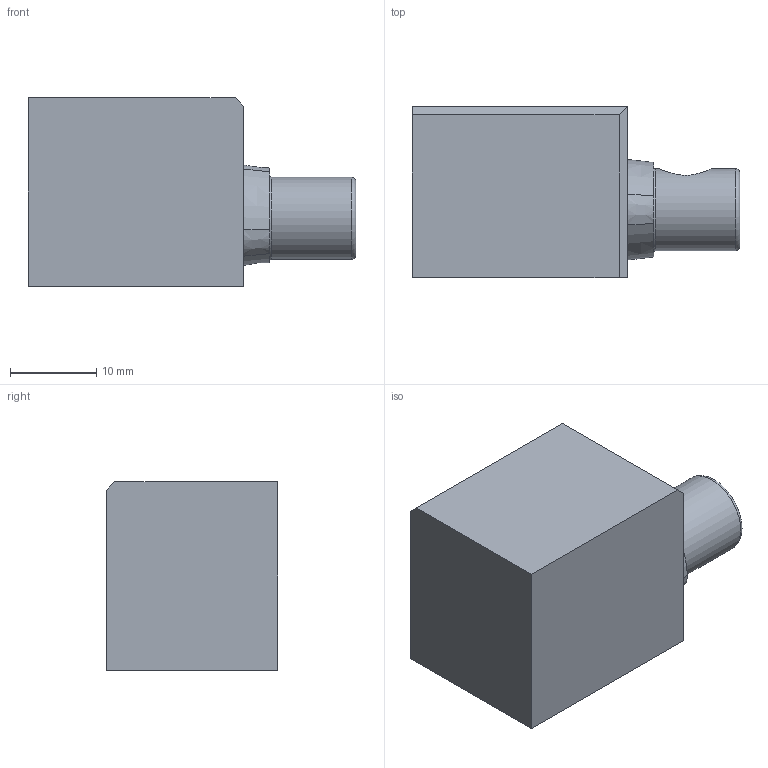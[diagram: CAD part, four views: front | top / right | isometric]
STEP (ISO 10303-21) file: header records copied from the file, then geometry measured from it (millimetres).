
FILE_DESCRIPTION(/* description */ (''),/* implementation_level */ '2;1');
FILE_NAME(/* name */ 'WEBDA_E00020396_00_DIN4003.stp',/* time_stamp */ '2021-06-15T10:51:06+02:00',/* author */ (''),/* organization */ (''),/* preprocessor_version */ 'ST-DEVELOPER v16',/* originating_system */ 'SIEMENS PLM Software NX 11.0',/* authorisation */ '');
FILE_SCHEMA (('AUTOMOTIVE_DESIGN { 1 0 10303 214 3 1 1 1 }'));
Length unit declared in the file: millimetre
Products named in the file (1): ja.h7E0CA2E8qag6
Bounding box: 38 x 19.9 x 21.9 mm (x, y, z)
Volume: 11757.9 mm3; surface area: 3444.9 mm2
Topology: 1 solids, 2 shells, 32 faces, 71 edges, 46 vertices
Faces by surface type: cone 13, plane 13, cylinder 4, torus 2
Full cylindrical faces by diameter (mm): 2.5 x1, 3 x2, 9.49 x1
Entity records: 1038 total; most frequent: CARTESIAN_POINT 307, DIRECTION 153, ORIENTED_EDGE 120, AXIS2_PLACEMENT_3D 65, EDGE_CURVE 60, EDGE_LOOP 45, VERTEX_POINT 43, ADVANCED_FACE 32
